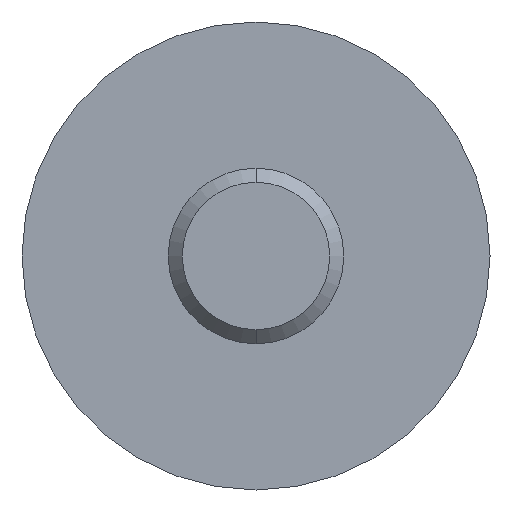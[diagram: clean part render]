
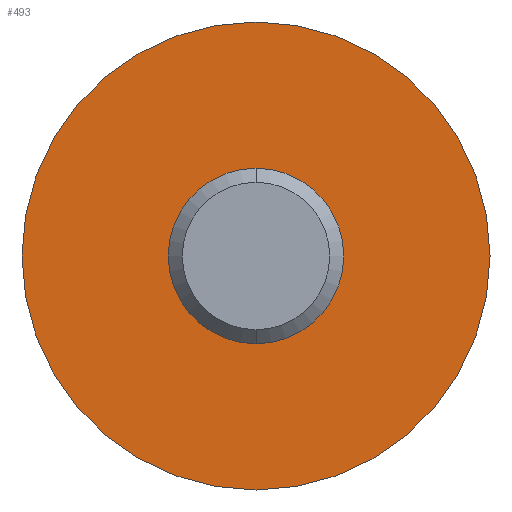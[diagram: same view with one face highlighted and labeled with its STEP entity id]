
A CAD part, front view. The second image highlights one B-rep face of the part: STEP entity #493.
In plain terms, the highlighted planar face has unit normal (0, -1, 0).
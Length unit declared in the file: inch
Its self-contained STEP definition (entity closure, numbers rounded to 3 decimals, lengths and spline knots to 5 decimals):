
#113 = DIRECTION ( 'NONE',  ( 0., 0., 1. ) ) ;
#115 = CARTESIAN_POINT ( 'NONE',  ( 0., 0., 0. ) ) ;
#127 = DIRECTION ( 'NONE',  ( 0., 0., 1. ) ) ;
#128 = DIRECTION ( 'NONE',  ( 0., 1., 0. ) ) ;
#130 = CARTESIAN_POINT ( 'NONE',  ( 0., 0., 0. ) ) ;
#133 = DIRECTION ( 'NONE',  ( 0., 0., 1. ) ) ;
#134 = DIRECTION ( 'NONE',  ( 0., -1., 0. ) ) ;
#136 = CARTESIAN_POINT ( 'NONE',  ( 0., 0., 0. ) ) ;
#209 = DIRECTION ( 'NONE',  ( 0., 0., 1. ) ) ;
#222 = CARTESIAN_POINT ( 'NONE',  ( 0., 0., -0.5 ) ) ;
#228 = FACE_BOUND ( 'NONE', #591, .T. ) ;
#234 = CARTESIAN_POINT ( 'NONE',  ( 0., 0., 0. ) ) ;
#236 = CARTESIAN_POINT ( 'NONE',  ( 0., 0., 0.5 ) ) ;
#249 = CARTESIAN_POINT ( 'NONE',  ( 0., 0., -0.1875 ) ) ;
#256 = DIRECTION ( 'NONE',  ( 0., 0., 1. ) ) ;
#262 = PLANE ( 'NONE',  #401 ) ;
#270 = FACE_OUTER_BOUND ( 'NONE', #583, .T. ) ;
#272 = DIRECTION ( 'NONE',  ( 0., 1., 0. ) ) ;
#281 = CARTESIAN_POINT ( 'NONE',  ( 0., 0., 0.1875 ) ) ;
#298 = DIRECTION ( 'NONE',  ( 0., 1., 0. ) ) ;
#304 = CARTESIAN_POINT ( 'NONE',  ( 0., 0., 0. ) ) ;
#341 = DIRECTION ( 'NONE',  ( 0., -1., 0. ) ) ;
#347 = CIRCLE ( 'NONE', #351, 0.1875 ) ;
#349 = CIRCLE ( 'NONE', #370, 0.5 ) ;
#351 = AXIS2_PLACEMENT_3D ( 'NONE', #136, #134, #133 ) ;
#370 = AXIS2_PLACEMENT_3D ( 'NONE', #130, #128, #127 ) ;
#387 = CIRCLE ( 'NONE', #388, 0.1875 ) ;
#388 = AXIS2_PLACEMENT_3D ( 'NONE', #115, #341, #113 ) ;
#401 = AXIS2_PLACEMENT_3D ( 'NONE', #234, #272, #256 ) ;
#430 = AXIS2_PLACEMENT_3D ( 'NONE', #304, #298, #209 ) ;
#435 = CIRCLE ( 'NONE', #430, 0.5 ) ;
#485 = EDGE_CURVE ( 'NONE', #574, #557, #387, .T. ) ;
#493 = ADVANCED_FACE ( 'NONE', ( #270, #228 ), #262, .F. ) ;
#512 = EDGE_CURVE ( 'NONE', #557, #574, #347, .T. ) ;
#513 = EDGE_CURVE ( 'NONE', #556, #578, #349, .T. ) ;
#544 = EDGE_CURVE ( 'NONE', #578, #556, #435, .T. ) ;
#556 = VERTEX_POINT ( 'NONE', #236 ) ;
#557 = VERTEX_POINT ( 'NONE', #281 ) ;
#574 = VERTEX_POINT ( 'NONE', #249 ) ;
#578 = VERTEX_POINT ( 'NONE', #222 ) ;
#583 = EDGE_LOOP ( 'NONE', ( #656, #675 ) ) ;
#591 = EDGE_LOOP ( 'NONE', ( #676, #658 ) ) ;
#656 = ORIENTED_EDGE ( 'NONE', *, *, #544, .F. ) ;
#658 = ORIENTED_EDGE ( 'NONE', *, *, #485, .F. ) ;
#675 = ORIENTED_EDGE ( 'NONE', *, *, #513, .F. ) ;
#676 = ORIENTED_EDGE ( 'NONE', *, *, #512, .F. ) ;
